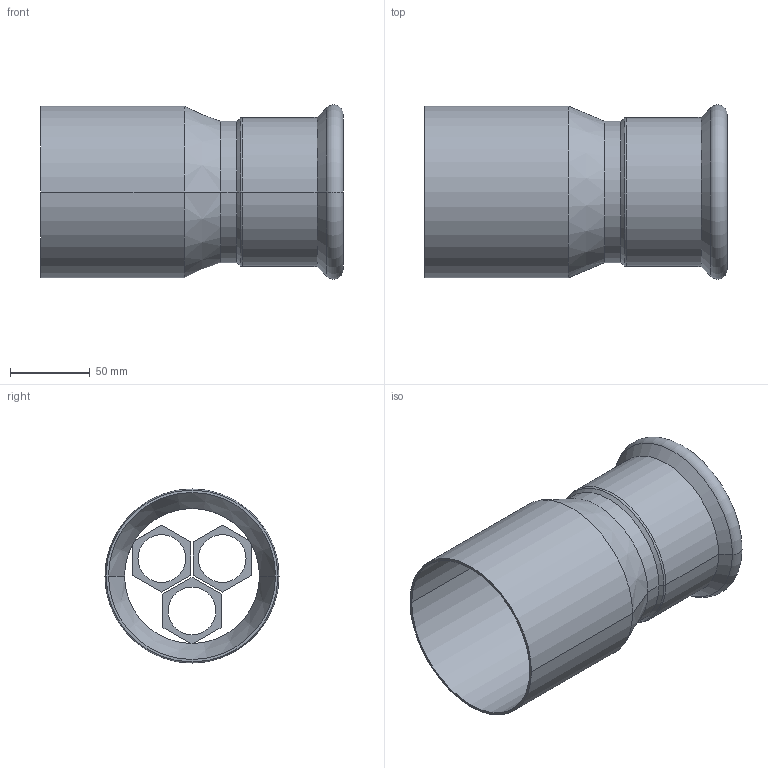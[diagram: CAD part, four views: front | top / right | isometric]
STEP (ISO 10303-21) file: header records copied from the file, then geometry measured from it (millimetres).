
FILE_DESCRIPTION(('OneSpaceDesigner STEP Export'),'2;1');
FILE_NAME('R2707 89x108.stp','2010-06-09T14:27:40',(''),(''),'OneSpace Designer STEP processor for AP214 (Solid Model)','OneSpace Modeling 15.00A 14-Mar-2007 (C) CoCreate Software GmbH','');
FILE_SCHEMA(('AUTOMOTIVE_DESIGN { 1 0 10303 214 1 1 1 1 }'));
Length unit declared in the file: millimetre
Products named in the file (2): R2707_89x108
Assembly tree (1 placements, depth 2):
  R2707_89x108
    R2707_89x108
Bounding box: 190 x 109.48 x 109.48 mm (x, y, z)
Volume: 134871.8 mm3; surface area: 130177.2 mm2
Topology: 1 solids, 1 shells, 66 faces, 160 edges, 101 vertices
Faces by surface type: plane 31, cylinder 23, cone 8, torus 4
Entity records: 1707 total; most frequent: ORIENTED_EDGE 320, CARTESIAN_POINT 272, DIRECTION 245, EDGE_CURVE 160, VERTEX_POINT 101, VECTOR 97, LINE 97, EDGE_LOOP 79
